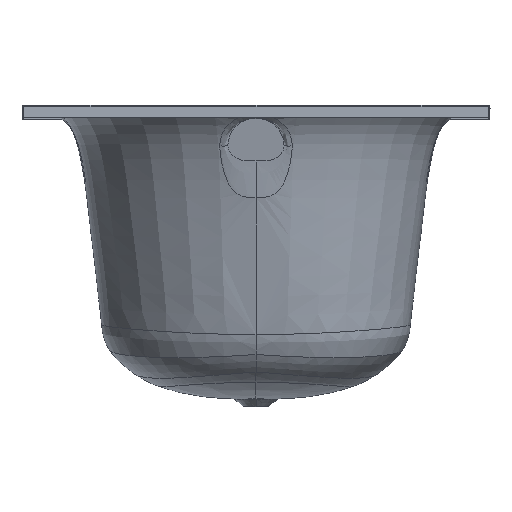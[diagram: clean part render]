
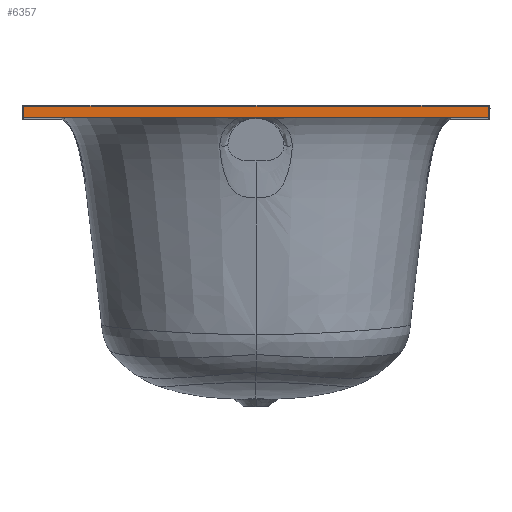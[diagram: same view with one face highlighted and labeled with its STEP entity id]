
A CAD part, top view. The second image highlights one B-rep face of the part: STEP entity #6357.
In plain terms, the highlighted planar face has unit normal (0, 0, -1).
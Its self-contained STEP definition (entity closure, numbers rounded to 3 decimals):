
#527=DIRECTION('',(0.,1.,0.));
#528=VECTOR('',#527,14.586);
#529=CARTESIAN_POINT('',(373.,480.,850.));
#530=LINE('',#529,#528);
#540=DIRECTION('',(1.,0.,0.));
#541=VECTOR('',#540,746.);
#542=CARTESIAN_POINT('',(-373.,480.,850.));
#543=LINE('',#542,#541);
#544=CARTESIAN_POINT('',(373.,494.586,850.));
#545=CARTESIAN_POINT('',(373.,495.462,850.));
#546=CARTESIAN_POINT('',(372.628,496.349,850.));
#547=CARTESIAN_POINT('',(372.,497.,850.));
#549=CARTESIAN_POINT('',(372.,497.,850.));
#550=CARTESIAN_POINT('',(371.906,497.09,850.));
#551=CARTESIAN_POINT('',(371.71,497.26,850.));
#552=CARTESIAN_POINT('',(371.384,497.484,850.));
#553=CARTESIAN_POINT('',(371.036,497.673,850.));
#554=CARTESIAN_POINT('',(370.673,497.82,850.));
#555=CARTESIAN_POINT('',(370.305,497.925,850.));
#556=CARTESIAN_POINT('',(369.94,497.986,850.));
#557=CARTESIAN_POINT('',(369.703,498.,850.));
#558=CARTESIAN_POINT('',(369.586,498.,850.));
#560=DIRECTION('',(-1.,0.,0.));
#561=VECTOR('',#560,51.461);
#562=CARTESIAN_POINT('',(369.586,498.,850.));
#563=LINE('',#562,#561);
#564=CARTESIAN_POINT('',(318.125,497.981,850.));
#565=CARTESIAN_POINT('',(311.695,497.978,850.));
#566=CARTESIAN_POINT('',(298.901,497.972,850.));
#567=CARTESIAN_POINT('',(279.884,497.963,850.));
#568=CARTESIAN_POINT('',(267.37,497.961,850.));
#569=CARTESIAN_POINT('',(261.15,497.961,850.));
#571=CARTESIAN_POINT('',(261.15,497.961,850.));
#572=CARTESIAN_POINT('',(231.142,497.955,850.));
#573=CARTESIAN_POINT('',(171.785,497.943,850.));
#574=CARTESIAN_POINT('',(84.693,497.915,850.));
#575=CARTESIAN_POINT('',(28.006,497.904,850.));
#576=CARTESIAN_POINT('',(0.,497.904,850.));
#578=CARTESIAN_POINT('',(0.,497.904,850.));
#579=CARTESIAN_POINT('',(-28.058,497.904,850.));
#580=CARTESIAN_POINT('',(-84.814,497.915,850.));
#581=CARTESIAN_POINT('',(-171.874,497.943,850.));
#582=CARTESIAN_POINT('',(-231.179,497.955,850.));
#583=CARTESIAN_POINT('',(-261.15,497.961,850.));
#585=CARTESIAN_POINT('',(-261.15,497.961,850.));
#586=CARTESIAN_POINT('',(-267.371,497.961,850.));
#587=CARTESIAN_POINT('',(-279.885,497.963,850.));
#588=CARTESIAN_POINT('',(-298.906,497.972,850.));
#589=CARTESIAN_POINT('',(-311.697,497.978,850.));
#590=CARTESIAN_POINT('',(-318.125,497.981,850.));
#592=DIRECTION('',(-1.,0.,0.));
#593=VECTOR('',#592,51.461);
#594=CARTESIAN_POINT('',(-318.125,497.981,850.));
#595=LINE('',#594,#593);
#596=CARTESIAN_POINT('',(-369.586,498.,850.));
#597=CARTESIAN_POINT('',(-369.703,498.,850.));
#598=CARTESIAN_POINT('',(-369.94,497.986,850.));
#599=CARTESIAN_POINT('',(-370.306,497.925,850.));
#600=CARTESIAN_POINT('',(-370.674,497.82,850.));
#601=CARTESIAN_POINT('',(-371.036,497.672,850.));
#602=CARTESIAN_POINT('',(-371.384,497.484,850.));
#603=CARTESIAN_POINT('',(-371.71,497.259,850.));
#604=CARTESIAN_POINT('',(-371.907,497.09,850.));
#605=CARTESIAN_POINT('',(-372.,497.,850.));
#607=CARTESIAN_POINT('',(-372.,497.,850.));
#608=CARTESIAN_POINT('',(-372.628,496.349,850.));
#609=CARTESIAN_POINT('',(-373.,495.462,850.));
#610=CARTESIAN_POINT('',(-373.,494.586,850.));
#1823=DIRECTION('',(0.,-1.,0.));
#1824=VECTOR('',#1823,14.586);
#1825=CARTESIAN_POINT('',(-373.,494.586,850.));
#1826=LINE('',#1825,#1824);
#4882=CARTESIAN_POINT('',(-373.,480.,850.));
#4883=CARTESIAN_POINT('',(373.,480.,850.));
#4884=VERTEX_POINT('',#4882);
#4885=VERTEX_POINT('',#4883);
#4995=CARTESIAN_POINT('',(369.586,498.,850.));
#4996=CARTESIAN_POINT('',(318.125,497.981,850.));
#4997=VERTEX_POINT('',#4995);
#4998=VERTEX_POINT('',#4996);
#4999=CARTESIAN_POINT('',(-373.,494.586,850.));
#5000=VERTEX_POINT('',#4999);
#5001=VERTEX_POINT('',#607);
#5002=VERTEX_POINT('',#596);
#5003=CARTESIAN_POINT('',(-318.125,497.981,850.));
#5004=VERTEX_POINT('',#5003);
#5005=VERTEX_POINT('',#585);
#5006=VERTEX_POINT('',#578);
#5007=VERTEX_POINT('',#571);
#5008=VERTEX_POINT('',#549);
#5009=VERTEX_POINT('',#544);
#6326=CARTESIAN_POINT('',(0.,489.,850.));
#6327=DIRECTION('',(0.,0.,1.));
#6328=DIRECTION('',(0.,-1.,0.));
#6329=AXIS2_PLACEMENT_3D('',#6326,#6327,#6328);
#6330=PLANE('',#6329);
#6332=ORIENTED_EDGE('',*,*,#6331,.T.);
#6333=ORIENTED_EDGE('',*,*,#6317,.T.);
#6334=ORIENTED_EDGE('',*,*,#6307,.T.);
#6336=ORIENTED_EDGE('',*,*,#6335,.T.);
#6338=ORIENTED_EDGE('',*,*,#6337,.T.);
#6340=ORIENTED_EDGE('',*,*,#6339,.T.);
#6342=ORIENTED_EDGE('',*,*,#6341,.T.);
#6344=ORIENTED_EDGE('',*,*,#6343,.T.);
#6346=ORIENTED_EDGE('',*,*,#6345,.T.);
#6348=ORIENTED_EDGE('',*,*,#6347,.T.);
#6350=ORIENTED_EDGE('',*,*,#6349,.T.);
#6352=ORIENTED_EDGE('',*,*,#6351,.T.);
#6354=ORIENTED_EDGE('',*,*,#6353,.T.);
#6355=EDGE_LOOP('',(#6332,#6333,#6334,#6336,#6338,#6340,#6342,#6344,#6346,#6348,
#6350,#6352,#6354));
#6356=FACE_OUTER_BOUND('',#6355,.F.);
#6357=ADVANCED_FACE('',(#6356),#6330,.F.);
#548=B_SPLINE_CURVE_WITH_KNOTS('',3,(#544,#545,#546,#547),.UNSPECIFIED.,.F.,.F.,
(4,4),(0.,1.),.UNSPECIFIED.);
#559=B_SPLINE_CURVE_WITH_KNOTS('',3,(#549,#550,#551,#552,#553,#554,#555,#556,
#557,#558),.UNSPECIFIED.,.F.,.F.,(4,1,1,1,1,1,1,4),(0.,0.143,
0.286,0.429,0.571,0.714,
0.857,1.),.UNSPECIFIED.);
#570=B_SPLINE_CURVE_WITH_KNOTS('',3,(#564,#565,#566,#567,#568,#569),
.UNSPECIFIED.,.F.,.F.,(4,1,1,4),(0.,0.333,0.667,1.),
.UNSPECIFIED.);
#577=B_SPLINE_CURVE_WITH_KNOTS('',3,(#571,#572,#573,#574,#575,#576),
.UNSPECIFIED.,.F.,.F.,(4,1,1,4),(0.,0.333,0.667,1.),
.UNSPECIFIED.);
#584=B_SPLINE_CURVE_WITH_KNOTS('',3,(#578,#579,#580,#581,#582,#583),
.UNSPECIFIED.,.F.,.F.,(4,1,1,4),(0.,0.333,0.667,1.),
.UNSPECIFIED.);
#591=B_SPLINE_CURVE_WITH_KNOTS('',3,(#585,#586,#587,#588,#589,#590),
.UNSPECIFIED.,.F.,.F.,(4,1,1,4),(0.,0.333,0.667,1.),
.UNSPECIFIED.);
#606=B_SPLINE_CURVE_WITH_KNOTS('',3,(#596,#597,#598,#599,#600,#601,#602,#603,
#604,#605),.UNSPECIFIED.,.F.,.F.,(4,1,1,1,1,1,1,4),(0.,0.143,
0.286,0.429,0.571,0.714,
0.857,1.),.UNSPECIFIED.);
#611=B_SPLINE_CURVE_WITH_KNOTS('',3,(#607,#608,#609,#610),.UNSPECIFIED.,.F.,.F.,
(4,4),(0.,1.),.UNSPECIFIED.);
#6307=EDGE_CURVE('',#5009,#5008,#548,.T.);
#6317=EDGE_CURVE('',#4885,#5009,#530,.T.);
#6331=EDGE_CURVE('',#4884,#4885,#543,.T.);
#6335=EDGE_CURVE('',#5008,#4997,#559,.T.);
#6337=EDGE_CURVE('',#4997,#4998,#563,.T.);
#6339=EDGE_CURVE('',#4998,#5007,#570,.T.);
#6341=EDGE_CURVE('',#5007,#5006,#577,.T.);
#6343=EDGE_CURVE('',#5006,#5005,#584,.T.);
#6345=EDGE_CURVE('',#5005,#5004,#591,.T.);
#6347=EDGE_CURVE('',#5004,#5002,#595,.T.);
#6349=EDGE_CURVE('',#5002,#5001,#606,.T.);
#6351=EDGE_CURVE('',#5001,#5000,#611,.T.);
#6353=EDGE_CURVE('',#5000,#4884,#1826,.T.);
